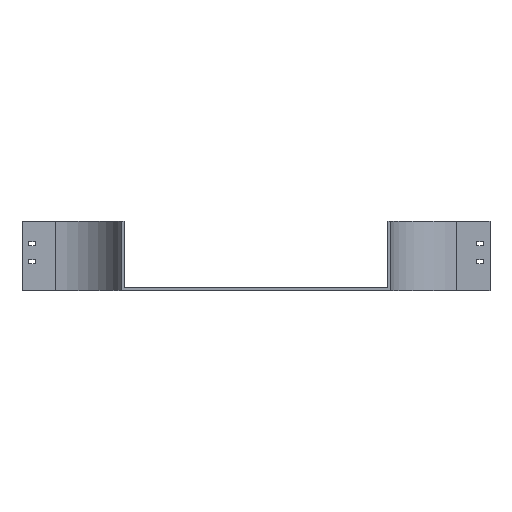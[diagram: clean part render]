
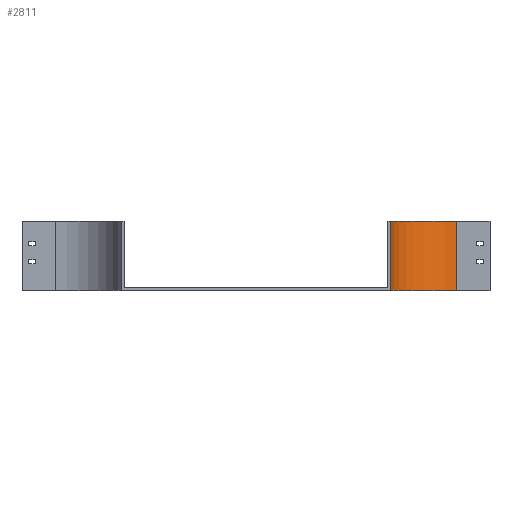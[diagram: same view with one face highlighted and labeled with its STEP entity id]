
A CAD part, top view. The second image highlights one B-rep face of the part: STEP entity #2811.
In plain terms, the highlighted cylindrical face has radius 100 mm (diameter 200 mm), a partial arc.
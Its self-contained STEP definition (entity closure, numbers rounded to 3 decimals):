
#11 = DIRECTION ( 'NONE',  ( 0., -1., 0. ) ) ;
#19 = ORIENTED_EDGE ( 'NONE', *, *, #3731, .T. ) ;
#89 = LINE ( 'NONE', #2482, #3839 ) ;
#111 = CARTESIAN_POINT ( 'NONE',  ( -100., 104., 0. ) ) ;
#213 = AXIS2_PLACEMENT_3D ( 'NONE', #1177, #2344, #574 ) ;
#230 = VERTEX_POINT ( 'NONE', #757 ) ;
#294 = EDGE_CURVE ( 'NONE', #2944, #230, #1656, .T. ) ;
#497 = CARTESIAN_POINT ( 'NONE',  ( 0., 104., 0. ) ) ;
#567 = ORIENTED_EDGE ( 'NONE', *, *, #294, .T. ) ;
#574 = DIRECTION ( 'NONE',  ( 0., 0., -1. ) ) ;
#655 = ORIENTED_EDGE ( 'NONE', *, *, #3835, .F. ) ;
#757 = CARTESIAN_POINT ( 'NONE',  ( 0., 0., -100. ) ) ;
#1063 = VECTOR ( 'NONE', #11, 1000. ) ;
#1099 = EDGE_CURVE ( 'NONE', #3015, #1394, #1538, .T. ) ;
#1177 = CARTESIAN_POINT ( 'NONE',  ( 0., 104., 0. ) ) ;
#1203 = CARTESIAN_POINT ( 'NONE',  ( -100., 104., 0. ) ) ;
#1294 = AXIS2_PLACEMENT_3D ( 'NONE', #497, #1997, #2846 ) ;
#1299 = DIRECTION ( 'NONE',  ( 0., -1., 0. ) ) ;
#1387 = CARTESIAN_POINT ( 'NONE',  ( 0., 104., -100. ) ) ;
#1394 = VERTEX_POINT ( 'NONE', #1387 ) ;
#1470 = LINE ( 'NONE', #1203, #1063 ) ;
#1538 = CIRCLE ( 'NONE', #1294, 100. ) ;
#1656 = CIRCLE ( 'NONE', #2330, 100. ) ;
#1827 = CARTESIAN_POINT ( 'NONE',  ( -100., 0., 0. ) ) ;
#1966 = CARTESIAN_POINT ( 'NONE',  ( 0., 0., 0. ) ) ;
#1994 = ORIENTED_EDGE ( 'NONE', *, *, #1099, .F. ) ;
#1996 = FACE_OUTER_BOUND ( 'NONE', #2162, .T. ) ;
#1997 = DIRECTION ( 'NONE',  ( 0., -1., 0. ) ) ;
#2162 = EDGE_LOOP ( 'NONE', ( #567, #655, #1994, #19 ) ) ;
#2330 = AXIS2_PLACEMENT_3D ( 'NONE', #1966, #2756, #3702 ) ;
#2344 = DIRECTION ( 'NONE',  ( 0., -1., 0. ) ) ;
#2482 = CARTESIAN_POINT ( 'NONE',  ( 0., 104., -100. ) ) ;
#2624 = CYLINDRICAL_SURFACE ( 'NONE', #213, 100. ) ;
#2756 = DIRECTION ( 'NONE',  ( 0., -1., 0. ) ) ;
#2811 = ADVANCED_FACE ( 'NONE', ( #1996 ), #2624, .F. ) ;
#2846 = DIRECTION ( 'NONE',  ( 0., 0., -1. ) ) ;
#2944 = VERTEX_POINT ( 'NONE', #1827 ) ;
#3015 = VERTEX_POINT ( 'NONE', #111 ) ;
#3702 = DIRECTION ( 'NONE',  ( 0., 0., -1. ) ) ;
#3731 = EDGE_CURVE ( 'NONE', #3015, #2944, #1470, .T. ) ;
#3835 = EDGE_CURVE ( 'NONE', #1394, #230, #89, .T. ) ;
#3839 = VECTOR ( 'NONE', #1299, 1000. ) ;
